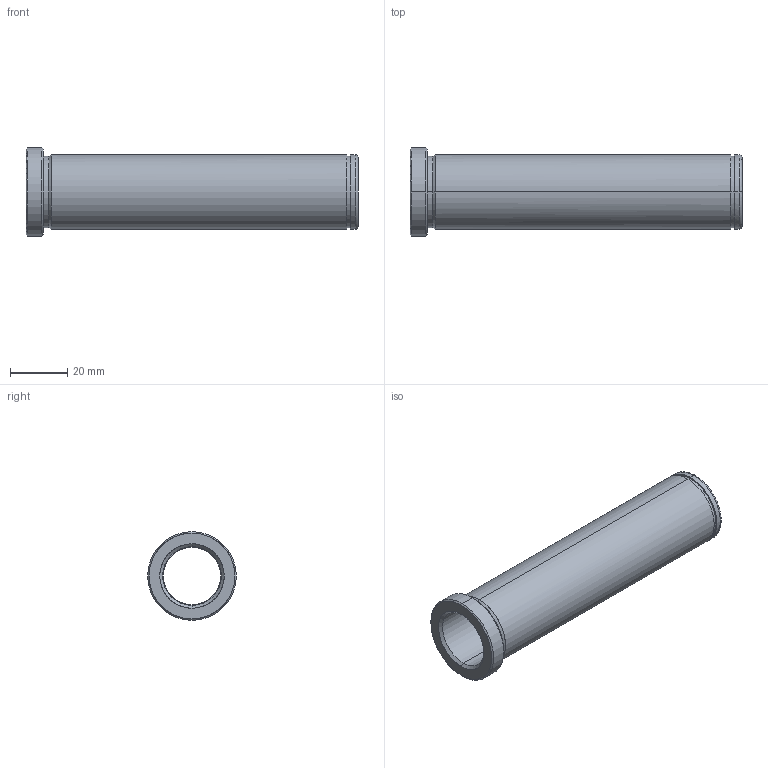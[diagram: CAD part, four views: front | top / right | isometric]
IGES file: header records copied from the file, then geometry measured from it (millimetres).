
Start section: START RECORD GO HERE.
Global section: file name: 553-20X116.igs; native system: DASSAULT SYSTEMES CATIA V5 R20 - www.3ds.com; preprocessor: CATIA Version 5 Release 20 ; author: Utente; organization: NB04-ASUS; date: 20210523.201933; units: millimetre
Bounding box: 116 x 31 x 31 mm (x, y, z)
Surface area: 17783.3 mm2 (no closed solid volume)
Topology: 0 solids, 0 shells, 32 faces, 204 edges, 204 vertices
Faces by surface type: revolution 26, plane 6
